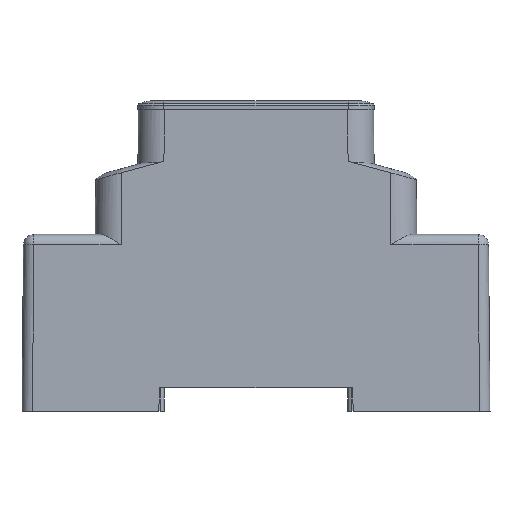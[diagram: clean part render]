
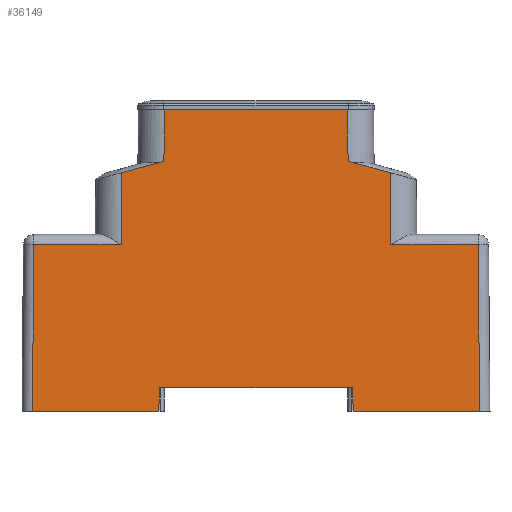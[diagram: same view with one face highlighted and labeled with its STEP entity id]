
A CAD part, front view. The second image highlights one B-rep face of the part: STEP entity #36149.
In plain terms, the highlighted planar face has unit normal (0, -1, 0.006).
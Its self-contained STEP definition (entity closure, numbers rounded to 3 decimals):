
#388 = DIRECTION ( 'NONE',  ( -1., 0., 0. ) ) ;
#563 = DIRECTION ( 'NONE',  ( -1., 0., 0. ) ) ;
#1063 = LINE ( 'NONE', #21263, #15315 ) ;
#1193 = DIRECTION ( 'NONE',  ( -0.005, -0.006, -1. ) ) ;
#1476 = CARTESIAN_POINT ( 'NONE',  ( -9.451, -17.646, 0. ) ) ;
#2327 = EDGE_CURVE ( 'NONE', #28256, #42836, #1063, .T. ) ;
#2408 = LINE ( 'NONE', #43911, #18405 ) ;
#2694 = EDGE_CURVE ( 'NONE', #34141, #13636, #24321, .T. ) ;
#3171 = CARTESIAN_POINT ( 'NONE',  ( 9.451, -17.973, -53.5 ) ) ;
#3561 = CARTESIAN_POINT ( 'NONE',  ( -43., -18., -58. ) ) ;
#3562 = EDGE_CURVE ( 'NONE', #36505, #25610, #32363, .T. ) ;
#4055 = CARTESIAN_POINT ( 'NONE',  ( 25.952, -17.804, -25.988 ) ) ;
#4590 = CARTESIAN_POINT ( 'NONE',  ( -17.7, -17.707, -9.954 ) ) ;
#5111 = VECTOR ( 'NONE', #39305, 1000. ) ;
#5416 = VECTOR ( 'NONE', #15244, 1000. ) ;
#6561 = AXIS2_PLACEMENT_3D ( 'NONE', #34799, #18031, #7144 ) ;
#6798 = DIRECTION ( 'NONE',  ( -1., 0., 0. ) ) ;
#6861 = CARTESIAN_POINT ( 'NONE',  ( 18.736, -18., -58. ) ) ;
#6925 = ORIENTED_EDGE ( 'NONE', *, *, #36987, .T. ) ;
#7084 = CARTESIAN_POINT ( 'NONE',  ( -18.736, -18., -58. ) ) ;
#7144 = DIRECTION ( 'NONE',  ( 0., 0.006, 1. ) ) ;
#7223 = ORIENTED_EDGE ( 'NONE', *, *, #26084, .T. ) ;
#7874 = CARTESIAN_POINT ( 'NONE',  ( -17.7, -17.707, -9.954 ) ) ;
#8621 = EDGE_CURVE ( 'NONE', #35221, #29122, #32771, .T. ) ;
#8913 = LINE ( 'NONE', #15275, #5111 ) ;
#9648 = CARTESIAN_POINT ( 'NONE',  ( 17.7, -17.707, -9.954 ) ) ;
#9940 = VECTOR ( 'NONE', #17806, 1000. ) ;
#10116 = CARTESIAN_POINT ( 'NONE',  ( 17.7, -17.707, -9.954 ) ) ;
#10219 = VECTOR ( 'NONE', #1193, 1000. ) ;
#10306 = EDGE_CURVE ( 'NONE', #17986, #13636, #31058, .T. ) ;
#11164 = CARTESIAN_POINT ( 'NONE',  ( 18.736, -18., -58. ) ) ;
#11340 = DIRECTION ( 'NONE',  ( -0.009, -0.006, -1. ) ) ;
#12125 = CARTESIAN_POINT ( 'NONE',  ( -18.5, -17.973, -53.5 ) ) ;
#12885 = ORIENTED_EDGE ( 'NONE', *, *, #27116, .F. ) ;
#13334 = VECTOR ( 'NONE', #40958, 1000. ) ;
#13636 = VERTEX_POINT ( 'NONE', #12125 ) ;
#13958 = LINE ( 'NONE', #31631, #9940 ) ;
#14411 = EDGE_CURVE ( 'NONE', #25610, #19339, #34914, .T. ) ;
#15244 = DIRECTION ( 'NONE',  ( -0.052, 0.006, 0.999 ) ) ;
#15275 = CARTESIAN_POINT ( 'NONE',  ( 42.763, -17.834, -30.856 ) ) ;
#15315 = VECTOR ( 'NONE', #388, 1000. ) ;
#15325 = DIRECTION ( 'NONE',  ( -1., 0., 0. ) ) ;
#15503 = ORIENTED_EDGE ( 'NONE', *, *, #44602, .T. ) ;
#15672 = ORIENTED_EDGE ( 'NONE', *, *, #2327, .F. ) ;
#16926 = DIRECTION ( 'NONE',  ( 0.009, -0.006, -1. ) ) ;
#17323 = ORIENTED_EDGE ( 'NONE', *, *, #42420, .T. ) ;
#17579 = CARTESIAN_POINT ( 'NONE',  ( 17.648, -17.646, 0. ) ) ;
#17806 = DIRECTION ( 'NONE',  ( 1., 0., 0. ) ) ;
#17810 = LINE ( 'NONE', #31634, #44207 ) ;
#17952 = DIRECTION ( 'NONE',  ( -0.009, -0.006, -1. ) ) ;
#17986 = VERTEX_POINT ( 'NONE', #20457 ) ;
#18031 = DIRECTION ( 'NONE',  ( 0., -1., 0.006 ) ) ;
#18145 = EDGE_CURVE ( 'NONE', #40796, #34716, #35161, .T. ) ;
#18405 = VECTOR ( 'NONE', #16926, 1000. ) ;
#19307 = CARTESIAN_POINT ( 'NONE',  ( 17.648, -17.646, 0. ) ) ;
#19339 = VERTEX_POINT ( 'NONE', #43141 ) ;
#20457 = CARTESIAN_POINT ( 'NONE',  ( 18.5, -17.973, -53.5 ) ) ;
#21216 = PLANE ( 'NONE',  #6561 ) ;
#21263 = CARTESIAN_POINT ( 'NONE',  ( 9.451, -18., -58. ) ) ;
#21344 = CARTESIAN_POINT ( 'NONE',  ( 42.721, -17.804, -25.988 ) ) ;
#21833 = CARTESIAN_POINT ( 'NONE',  ( -17.648, -17.646, 0. ) ) ;
#22542 = VECTOR ( 'NONE', #11340, 1000. ) ;
#22826 = VECTOR ( 'NONE', #38872, 1000. ) ;
#23709 = ORIENTED_EDGE ( 'NONE', *, *, #33603, .F. ) ;
#24203 = VECTOR ( 'NONE', #28293, 1000. ) ;
#24321 = LINE ( 'NONE', #7084, #26183 ) ;
#24743 = VERTEX_POINT ( 'NONE', #9648 ) ;
#24744 = CARTESIAN_POINT ( 'NONE',  ( -42.744, -17.821, -28.71 ) ) ;
#25255 = VERTEX_POINT ( 'NONE', #21344 ) ;
#25610 = VERTEX_POINT ( 'NONE', #42094 ) ;
#25833 = VECTOR ( 'NONE', #15325, 1000. ) ;
#26084 = EDGE_CURVE ( 'NONE', #28256, #25255, #8913, .T. ) ;
#26179 = ORIENTED_EDGE ( 'NONE', *, *, #36209, .T. ) ;
#26183 = VECTOR ( 'NONE', #34735, 1000. ) ;
#26824 = ORIENTED_EDGE ( 'NONE', *, *, #27277, .F. ) ;
#27116 = EDGE_CURVE ( 'NONE', #42836, #17986, #37926, .T. ) ;
#27277 = EDGE_CURVE ( 'NONE', #35221, #24743, #37219, .T. ) ;
#28227 = CARTESIAN_POINT ( 'NONE',  ( -17.648, -17.646, 0. ) ) ;
#28256 = VERTEX_POINT ( 'NONE', #38667 ) ;
#28293 = DIRECTION ( 'NONE',  ( -0.966, -0.002, -0.259 ) ) ;
#28469 = FACE_OUTER_BOUND ( 'NONE', #39926, .T. ) ;
#28611 = CARTESIAN_POINT ( 'NONE',  ( 25.831, -17.72, -12.133 ) ) ;
#28940 = ORIENTED_EDGE ( 'NONE', *, *, #33558, .F. ) ;
#29086 = ORIENTED_EDGE ( 'NONE', *, *, #14411, .T. ) ;
#29122 = VERTEX_POINT ( 'NONE', #28227 ) ;
#29345 = VECTOR ( 'NONE', #43567, 1000. ) ;
#30618 = CARTESIAN_POINT ( 'NONE',  ( -18.736, -18., -58. ) ) ;
#31058 = LINE ( 'NONE', #3171, #44049 ) ;
#31158 = ORIENTED_EDGE ( 'NONE', *, *, #18145, .T. ) ;
#31631 = CARTESIAN_POINT ( 'NONE',  ( -9.451, -18., -58. ) ) ;
#31634 = CARTESIAN_POINT ( 'NONE',  ( -44.703, -17.804, -25.988 ) ) ;
#32363 = LINE ( 'NONE', #7874, #24203 ) ;
#32771 = LINE ( 'NONE', #1476, #25833 ) ;
#33558 = EDGE_CURVE ( 'NONE', #33903, #40478, #2408, .T. ) ;
#33603 = EDGE_CURVE ( 'NONE', #24743, #33903, #40740, .T. ) ;
#33903 = VERTEX_POINT ( 'NONE', #28611 ) ;
#34141 = VERTEX_POINT ( 'NONE', #30618 ) ;
#34716 = VERTEX_POINT ( 'NONE', #3561 ) ;
#34735 = DIRECTION ( 'NONE',  ( 0.052, 0.006, 0.999 ) ) ;
#34790 = CARTESIAN_POINT ( 'NONE',  ( 25.935, -17.804, -25.988 ) ) ;
#34799 = CARTESIAN_POINT ( 'NONE',  ( -30.989, -17.838, -31.5 ) ) ;
#34914 = LINE ( 'NONE', #35136, #22542 ) ;
#35023 = LINE ( 'NONE', #34790, #22826 ) ;
#35136 = CARTESIAN_POINT ( 'NONE',  ( -25.831, -17.72, -12.133 ) ) ;
#35161 = LINE ( 'NONE', #24744, #43629 ) ;
#35221 = VERTEX_POINT ( 'NONE', #17579 ) ;
#36149 = ADVANCED_FACE ( 'NONE', ( #28469 ), #21216, .T. ) ;
#36209 = EDGE_CURVE ( 'NONE', #19339, #40796, #17810, .T. ) ;
#36505 = VERTEX_POINT ( 'NONE', #4590 ) ;
#36554 = ORIENTED_EDGE ( 'NONE', *, *, #3562, .T. ) ;
#36987 = EDGE_CURVE ( 'NONE', #29122, #36505, #39734, .T. ) ;
#37219 = LINE ( 'NONE', #19307, #29345 ) ;
#37926 = LINE ( 'NONE', #6861, #5416 ) ;
#38667 = CARTESIAN_POINT ( 'NONE',  ( 43., -18., -58. ) ) ;
#38872 = DIRECTION ( 'NONE',  ( -1., 0., 0. ) ) ;
#39305 = DIRECTION ( 'NONE',  ( -0.009, 0.006, 1. ) ) ;
#39734 = LINE ( 'NONE', #21833, #10219 ) ;
#39926 = EDGE_LOOP ( 'NONE', ( #26179, #31158, #15503, #40152, #43194, #12885, #15672, #7223, #17323, #28940, #23709, #26824, #43880, #6925, #36554, #29086 ) ) ;
#40152 = ORIENTED_EDGE ( 'NONE', *, *, #2694, .T. ) ;
#40478 = VERTEX_POINT ( 'NONE', #4055 ) ;
#40740 = LINE ( 'NONE', #10116, #13334 ) ;
#40796 = VERTEX_POINT ( 'NONE', #44827 ) ;
#40958 = DIRECTION ( 'NONE',  ( 0.966, -0.002, -0.259 ) ) ;
#42094 = CARTESIAN_POINT ( 'NONE',  ( -25.831, -17.72, -12.133 ) ) ;
#42420 = EDGE_CURVE ( 'NONE', #25255, #40478, #35023, .T. ) ;
#42836 = VERTEX_POINT ( 'NONE', #11164 ) ;
#43141 = CARTESIAN_POINT ( 'NONE',  ( -25.952, -17.804, -25.988 ) ) ;
#43194 = ORIENTED_EDGE ( 'NONE', *, *, #10306, .F. ) ;
#43567 = DIRECTION ( 'NONE',  ( 0.005, -0.006, -1. ) ) ;
#43629 = VECTOR ( 'NONE', #17952, 1000. ) ;
#43880 = ORIENTED_EDGE ( 'NONE', *, *, #8621, .T. ) ;
#43911 = CARTESIAN_POINT ( 'NONE',  ( 25.831, -17.72, -12.133 ) ) ;
#44049 = VECTOR ( 'NONE', #6798, 1000. ) ;
#44207 = VECTOR ( 'NONE', #563, 1000. ) ;
#44602 = EDGE_CURVE ( 'NONE', #34716, #34141, #13958, .T. ) ;
#44827 = CARTESIAN_POINT ( 'NONE',  ( -42.721, -17.804, -25.988 ) ) ;
